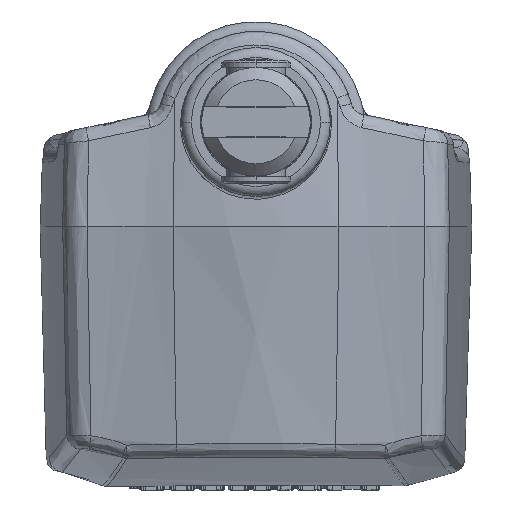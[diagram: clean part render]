
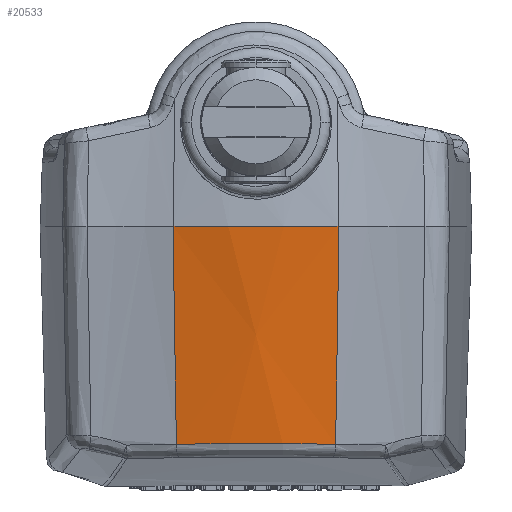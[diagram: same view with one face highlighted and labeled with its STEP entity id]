
A CAD part, top view. The second image highlights one B-rep face of the part: STEP entity #20533.
In plain terms, the highlighted conical face has half-angle 5 degrees and reference radius 92.079 mm.
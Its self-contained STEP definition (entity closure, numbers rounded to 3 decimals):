
#13114=CARTESIAN_POINT('',(0.,-3.,-5.807));
#13115=DIRECTION('',(0.,-1.,0.));
#13116=DIRECTION('',(0.178,0.,0.984));
#13117=AXIS2_PLACEMENT_3D('',#13114,#13115,#13116);
#14567=CARTESIAN_POINT('',(-16.045,40.907,
82.912));
#14575=CARTESIAN_POINT('',(16.045,40.907,82.912));
#14576=CARTESIAN_POINT('',(12.517,40.836,83.557));
#14577=CARTESIAN_POINT('',(5.384,40.738,84.42));
#14578=CARTESIAN_POINT('',(-5.384,40.738,
84.42));
#14579=CARTESIAN_POINT('',(-12.517,40.836,
83.557));
#14580=CARTESIAN_POINT('',(-16.045,40.907,
82.912));
#14594=DIRECTION('',(0.016,0.996,-0.086));
#14595=VECTOR('',#14594,44.075);
#14596=CARTESIAN_POINT('',(-16.729,-3.,86.692));
#14597=LINE('',#14596,#14595);
#14598=DIRECTION('',(-0.016,0.996,-0.086));
#14599=VECTOR('',#14598,44.075);
#14600=CARTESIAN_POINT('',(16.729,-3.,86.692));
#14601=LINE('',#14600,#14599);
#18371=CARTESIAN_POINT('',(16.729,-3.,86.692));
#18372=CARTESIAN_POINT('',(-16.729,-3.,86.692));
#18373=VERTEX_POINT('',#18371);
#18374=VERTEX_POINT('',#18372);
#18382=VERTEX_POINT('',#14567);
#18383=VERTEX_POINT('',#14575);
#20520=CARTESIAN_POINT('',(0.,18.954,-5.807));
#20521=DIRECTION('',(0.,-1.,0.));
#20522=DIRECTION('',(0.,0.,-1.));
#20523=AXIS2_PLACEMENT_3D('',#20520,#20521,#20522);
#20524=CONICAL_SURFACE('',#20523,92.079,5.);
#20525=ORIENTED_EDGE('',*,*,#20511,.F.);
#20527=ORIENTED_EDGE('',*,*,#20526,.F.);
#20528=ORIENTED_EDGE('',*,*,#18794,.T.);
#20530=ORIENTED_EDGE('',*,*,#20529,.T.);
#20531=EDGE_LOOP('',(#20525,#20527,#20528,#20530));
#20532=FACE_OUTER_BOUND('',#20531,.F.);
#20533=ADVANCED_FACE('',(#20532),#20524,.T.);
#13118=CIRCLE('',#13117,94.);
#14581=B_SPLINE_CURVE_WITH_KNOTS('',3,(#14575,#14576,#14577,#14578,#14579,
#14580),.UNSPECIFIED.,.F.,.F.,(4,1,1,4),(0.,0.333,
0.667,1.),.UNSPECIFIED.);
#18794=EDGE_CURVE('',#18373,#18374,#13118,.T.);
#20511=EDGE_CURVE('',#18383,#18382,#14581,.T.);
#20526=EDGE_CURVE('',#18373,#18383,#14601,.T.);
#20529=EDGE_CURVE('',#18374,#18382,#14597,.T.);
